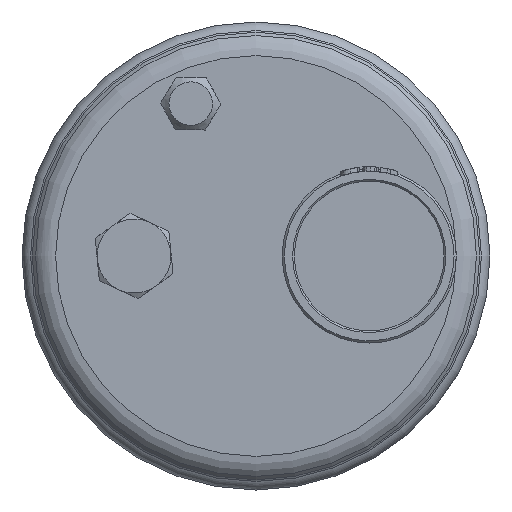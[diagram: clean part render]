
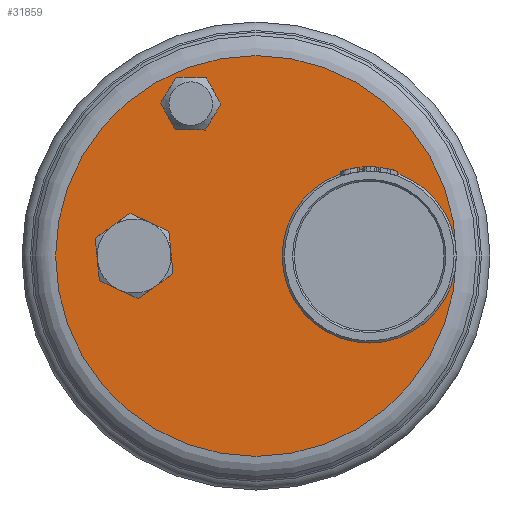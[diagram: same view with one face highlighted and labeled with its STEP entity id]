
A CAD part, front view. The second image highlights one B-rep face of the part: STEP entity #31859.
In plain terms, the highlighted planar face has unit normal (0, -1, 0).
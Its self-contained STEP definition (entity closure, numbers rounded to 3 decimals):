
#1483=PLANE('',#34150);
#2210=CIRCLE('',#34151,46.035);
#2211=CIRCLE('',#34152,6.);
#2212=CIRCLE('',#34153,8.);
#2213=CIRCLE('',#34154,20.);
#7362=FACE_BOUND('',#11104,.T.);
#7363=FACE_BOUND('',#11105,.T.);
#7364=FACE_BOUND('',#11106,.T.);
#9143=FACE_OUTER_BOUND('',#11103,.T.);
#11103=EDGE_LOOP('',(#29800));
#11104=EDGE_LOOP('',(#29801));
#11105=EDGE_LOOP('',(#29802));
#11106=EDGE_LOOP('',(#29803));
#15660=VERTEX_POINT('',#69080);
#15661=VERTEX_POINT('',#69082);
#15662=VERTEX_POINT('',#69084);
#15663=VERTEX_POINT('',#69086);
#20402=EDGE_CURVE('',#15660,#15660,#2210,.T.);
#20403=EDGE_CURVE('',#15661,#15661,#2211,.T.);
#20404=EDGE_CURVE('',#15662,#15662,#2212,.T.);
#20405=EDGE_CURVE('',#15663,#15663,#2213,.T.);
#29800=ORIENTED_EDGE('',*,*,#20402,.T.);
#29801=ORIENTED_EDGE('',*,*,#20403,.F.);
#29802=ORIENTED_EDGE('',*,*,#20404,.F.);
#29803=ORIENTED_EDGE('',*,*,#20405,.F.);
#31859=ADVANCED_FACE('',(#9143,#7362,#7363,#7364),#1483,.T.);
#34150=AXIS2_PLACEMENT_3D('',#69079,#40851,#40852);
#34151=AXIS2_PLACEMENT_3D('',#69081,#40853,#40854);
#34152=AXIS2_PLACEMENT_3D('',#69083,#40855,#40856);
#34153=AXIS2_PLACEMENT_3D('',#69085,#40857,#40858);
#34154=AXIS2_PLACEMENT_3D('',#69087,#40859,#40860);
#40851=DIRECTION('center_axis',(0.,-1.,0.));
#40852=DIRECTION('ref_axis',(0.,0.,-1.));
#40853=DIRECTION('center_axis',(0.,-1.,0.));
#40854=DIRECTION('ref_axis',(-1.,0.,0.));
#40855=DIRECTION('center_axis',(0.,-1.,0.));
#40856=DIRECTION('ref_axis',(-0.132,0.,-0.991));
#40857=DIRECTION('center_axis',(0.,-1.,0.));
#40858=DIRECTION('ref_axis',(0.,0.,
1.));
#40859=DIRECTION('center_axis',(0.,-1.,0.));
#40860=DIRECTION('ref_axis',(-1.,0.,0.));
#69079=CARTESIAN_POINT('Origin',(26.984,-6.005,0.));
#69080=CARTESIAN_POINT('',(3.967,-6.005,0.));
#69081=CARTESIAN_POINT('Origin',(50.002,-6.005,0.));
#69082=CARTESIAN_POINT('',(34.211,-6.005,29.052));
#69083=CARTESIAN_POINT('Origin',(35.002,-6.005,35.));
#69084=CARTESIAN_POINT('',(22.002,-6.005,8.));
#69085=CARTESIAN_POINT('Origin',(22.002,-6.005,0.));
#69086=CARTESIAN_POINT('',(56.002,-6.005,0.));
#69087=CARTESIAN_POINT('Origin',(76.002,-6.005,0.));
